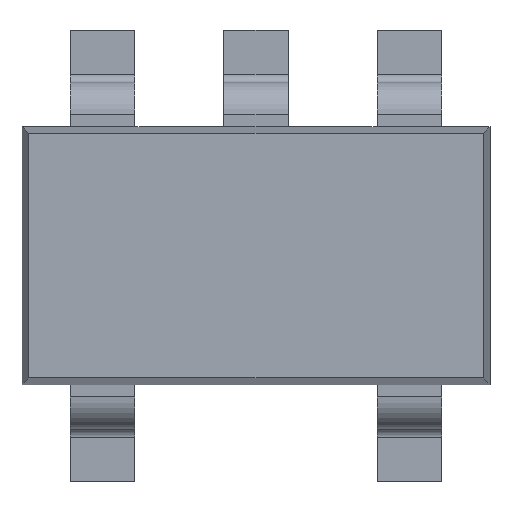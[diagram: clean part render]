
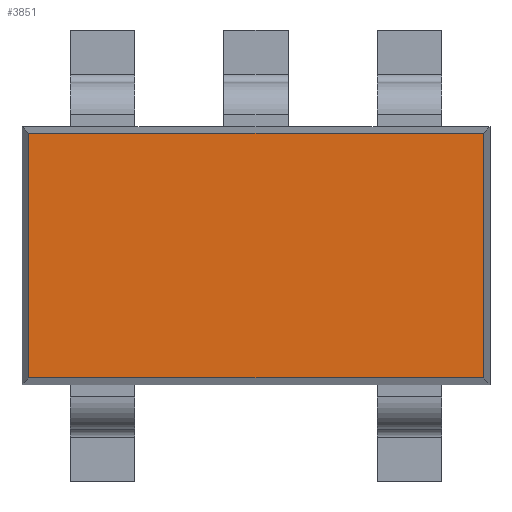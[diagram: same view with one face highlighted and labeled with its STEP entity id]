
A CAD part, top view. The second image highlights one B-rep face of the part: STEP entity #3851.
In plain terms, the highlighted planar face has unit normal (0, 0, 1).
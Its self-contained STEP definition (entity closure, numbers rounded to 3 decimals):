
#91 = DIRECTION ( 'NONE',  ( 0., 0., 1. ) ) ;
#227 = VERTEX_POINT ( 'NONE', #1100 ) ;
#236 = CARTESIAN_POINT ( 'NONE',  ( 1.408, -0.758, 0.45 ) ) ;
#387 = CARTESIAN_POINT ( 'NONE',  ( -1.408, 0.758, 0.45 ) ) ;
#466 = VECTOR ( 'NONE', #4999, 1000. ) ;
#511 = DIRECTION ( 'NONE',  ( -1., 0., 0. ) ) ;
#535 = PLANE ( 'NONE',  #2790 ) ;
#906 = EDGE_CURVE ( 'NONE', #1638, #227, #3035, .T. ) ;
#1033 = EDGE_LOOP ( 'NONE', ( #1795, #3443, #1139, #1895 ) ) ;
#1100 = CARTESIAN_POINT ( 'NONE',  ( 1.408, 0.758, 0.45 ) ) ;
#1139 = ORIENTED_EDGE ( 'NONE', *, *, #2108, .T. ) ;
#1302 = FACE_OUTER_BOUND ( 'NONE', #1033, .T. ) ;
#1602 = DIRECTION ( 'NONE',  ( 1., 0., 0. ) ) ;
#1638 = VERTEX_POINT ( 'NONE', #236 ) ;
#1705 = LINE ( 'NONE', #4669, #4431 ) ;
#1795 = ORIENTED_EDGE ( 'NONE', *, *, #3675, .T. ) ;
#1895 = ORIENTED_EDGE ( 'NONE', *, *, #3522, .T. ) ;
#2038 = LINE ( 'NONE', #2414, #3634 ) ;
#2057 = CARTESIAN_POINT ( 'NONE',  ( 0., 0., 0.45 ) ) ;
#2108 = EDGE_CURVE ( 'NONE', #227, #3020, #2038, .T. ) ;
#2224 = LINE ( 'NONE', #4972, #466 ) ;
#2414 = CARTESIAN_POINT ( 'NONE',  ( 1.45, 0.758, 0.45 ) ) ;
#2439 = DIRECTION ( 'NONE',  ( 1., 0., 0. ) ) ;
#2472 = VERTEX_POINT ( 'NONE', #3163 ) ;
#2790 = AXIS2_PLACEMENT_3D ( 'NONE', #2057, #91, #2439 ) ;
#3020 = VERTEX_POINT ( 'NONE', #387 ) ;
#3035 = LINE ( 'NONE', #3413, #4451 ) ;
#3163 = CARTESIAN_POINT ( 'NONE',  ( -1.408, -0.758, 0.45 ) ) ;
#3413 = CARTESIAN_POINT ( 'NONE',  ( 1.408, -0.8, 0.45 ) ) ;
#3443 = ORIENTED_EDGE ( 'NONE', *, *, #906, .T. ) ;
#3522 = EDGE_CURVE ( 'NONE', #3020, #2472, #2224, .T. ) ;
#3634 = VECTOR ( 'NONE', #511, 1000. ) ;
#3675 = EDGE_CURVE ( 'NONE', #2472, #1638, #1705, .T. ) ;
#3777 = DIRECTION ( 'NONE',  ( 0., 1., 0. ) ) ;
#3851 = ADVANCED_FACE ( 'NONE', ( #1302 ), #535, .T. ) ;
#4431 = VECTOR ( 'NONE', #1602, 1000. ) ;
#4451 = VECTOR ( 'NONE', #3777, 1000. ) ;
#4669 = CARTESIAN_POINT ( 'NONE',  ( -1.45, -0.758, 0.45 ) ) ;
#4972 = CARTESIAN_POINT ( 'NONE',  ( -1.408, 0.8, 0.45 ) ) ;
#4999 = DIRECTION ( 'NONE',  ( 0., -1., 0. ) ) ;
